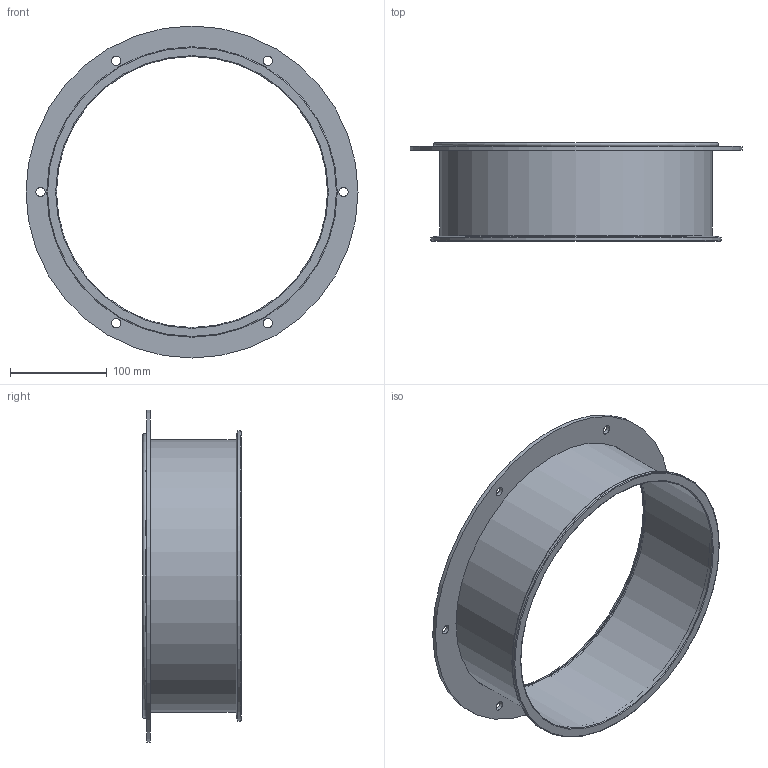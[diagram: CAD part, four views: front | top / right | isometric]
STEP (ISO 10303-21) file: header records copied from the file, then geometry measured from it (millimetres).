
FILE_DESCRIPTION(/* description */ (''),/* implementation_level */ '2;1');
FILE_NAME(/* name */ 'METU_Flachflanschadapter_Flansch_verzinkt_EA104-41B_280_L100.stp',/* time_stamp */ '2022-06-29T14:59:38+02:00',/* author */ (''),/* organization */ (''),/* preprocessor_version */ 'ST-DEVELOPER v11',/* originating_system */ 'SIEMENS UGS NX 6.0',/* authorisation */ '');
FILE_SCHEMA (('CONFIG_CONTROL_DESIGN'));
Length unit declared in the file: millimetre
Products named in the file (1): d.ga9D1087g0
Bounding box: 343 x 101.5 x 343 mm (x, y, z)
Volume: 246980.7 mm3; surface area: 296056.9 mm2
Topology: 3 solids, 3 shells, 30 faces, 68 edges, 47 vertices
Faces by surface type: cylinder 15, plane 9, torus 5, cone 1
Full cylindrical faces by diameter (mm): 9.5 x6, 280 x2, 281.6 x2, 283 x1, 291.6 x2, 300 x1, 343 x1
Entity records: 782 total; most frequent: DIRECTION 134, CARTESIAN_POINT 103, FACE_BOUND 72, EDGE_LOOP 72, ORIENTED_EDGE 72, AXIS2_PLACEMENT_3D 67, VERTEX_POINT 36, EDGE_CURVE 36
